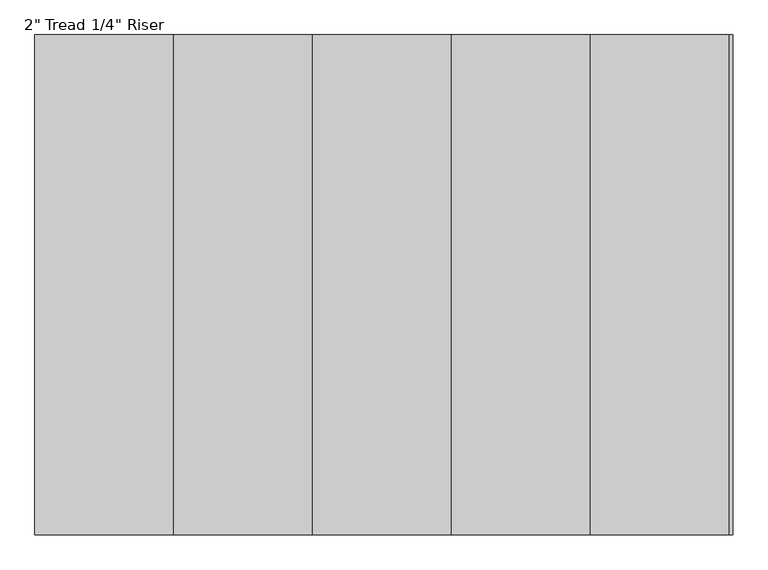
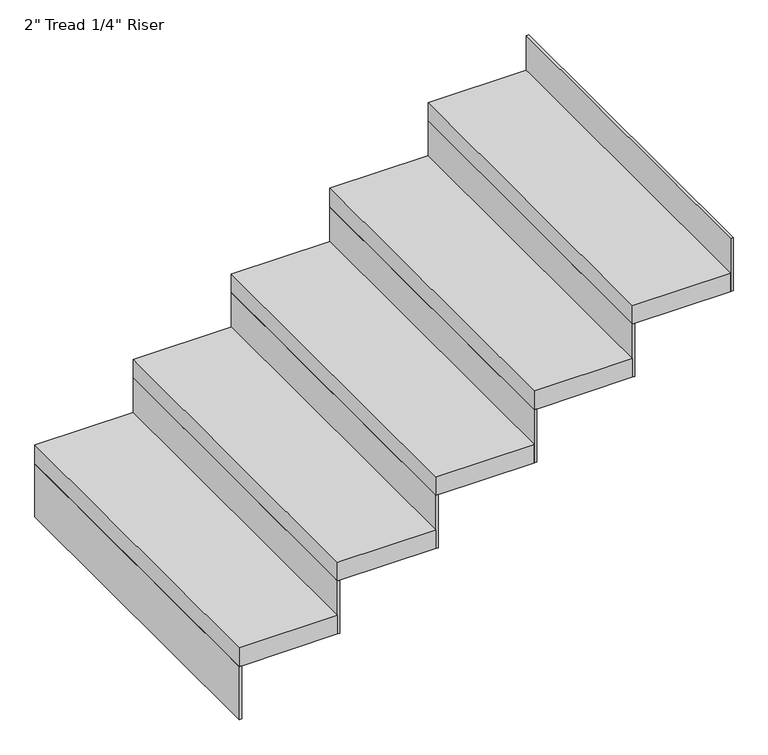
"""IFC4 building model written with IfcOpenShell, lengths in millimetres: stair flight geometry."""

from ifc_helpers import new_model, si_unit, frame, origin, place, context, project, spatial, polyline, outline, extrude, source, transform, mapped, element, save


def stair_flight_cebf5503(model_context):
    return source(origin(), model_context, "Body", "SweptSolid", [
        extrude(outline(polyline([(17539.7535021, 43330.9361774), (17533.4035021, 43330.9361774), (17533.4035021, 44245.3361774), (17539.7535021, 44245.3361774), (17539.7535021, 43330.9361774)])), frame((0.0, 0.0, 2126.3428571), z_axis=(0.0, 0.0, 1.0), x_axis=(1.0, 0.0, 0.0)), (0.0, 0.0, 1.0), 145.1428571),
        extrude(outline(polyline([(17787.4035021, 44245.3361774), (17787.4035021, 43330.9361774), (17533.4035021, 43330.9361774), (17533.4035021, 44245.3361774), (17787.4035021, 44245.3361774)])), frame((0.0, 0.0, 2271.4857143), z_axis=(0.0, 0.0, 1.0), x_axis=(1.0, 0.0, 0.0)), (0.0, 0.0, 1.0), 50.8),
        extrude(outline(polyline([(17793.7535021, 43330.9361774), (17787.4035021, 43330.9361774), (17787.4035021, 44245.3361774), (17793.7535021, 44245.3361774), (17793.7535021, 43330.9361774)])), frame((0.0, 0.0, 2271.4857143), z_axis=(0.0, 0.0, 1.0), x_axis=(1.0, 0.0, 0.0)), (0.0, 0.0, 1.0), 145.1428571),
        extrude(outline(polyline([(18041.4035021, 44245.3361774), (18041.4035021, 43330.9361774), (17787.4035021, 43330.9361774), (17787.4035021, 44245.3361774), (18041.4035021, 44245.3361774)])), frame((0.0, 0.0, 2416.6285714), z_axis=(0.0, 0.0, 1.0), x_axis=(1.0, 0.0, 0.0)), (0.0, 0.0, 1.0), 50.8),
        extrude(outline(polyline([(18047.7535021, 43330.9361774), (18041.4035021, 43330.9361774), (18041.4035021, 44245.3361774), (18047.7535021, 44245.3361774), (18047.7535021, 43330.9361774)])), frame((0.0, 0.0, 2416.6285714), z_axis=(0.0, 0.0, 1.0), x_axis=(1.0, 0.0, 0.0)), (0.0, 0.0, 1.0), 145.1428571),
        extrude(outline(polyline([(18295.4035021, 44245.3361774), (18295.4035021, 43330.9361774), (18041.4035021, 43330.9361774), (18041.4035021, 44245.3361774), (18295.4035021, 44245.3361774)])), frame((0.0, 0.0, 2561.7714286), z_axis=(0.0, 0.0, 1.0), x_axis=(1.0, 0.0, 0.0)), (0.0, 0.0, 1.0), 50.8),
        extrude(outline(polyline([(18301.7535021, 43330.9361774), (18295.4035021, 43330.9361774), (18295.4035021, 44245.3361774), (18301.7535021, 44245.3361774), (18301.7535021, 43330.9361774)])), frame((0.0, 0.0, 2561.7714286), z_axis=(0.0, 0.0, 1.0), x_axis=(1.0, 0.0, 0.0)), (0.0, 0.0, 1.0), 145.1428571),
        extrude(outline(polyline([(18549.4035021, 44245.3361774), (18549.4035021, 43330.9361774), (18295.4035021, 43330.9361774), (18295.4035021, 44245.3361774), (18549.4035021, 44245.3361774)])), frame((0.0, 0.0, 2706.9142857), z_axis=(0.0, 0.0, 1.0), x_axis=(1.0, 0.0, 0.0)), (0.0, 0.0, 1.0), 50.8),
        extrude(outline(polyline([(18555.7535021, 43330.9361774), (18549.4035021, 43330.9361774), (18549.4035021, 44245.3361774), (18555.7535021, 44245.3361774), (18555.7535021, 43330.9361774)])), frame((0.0, 0.0, 2706.9142857), z_axis=(0.0, 0.0, 1.0), x_axis=(1.0, 0.0, 0.0)), (0.0, 0.0, 1.0), 145.1428571),
        extrude(outline(polyline([(18809.7535021, 43330.9361774), (18803.4035021, 43330.9361774), (18803.4035021, 44245.3361774), (18809.7535021, 44245.3361774), (18809.7535021, 43330.9361774)])), frame((0.0, 0.0, 2852.0571429), z_axis=(0.0, 0.0, 1.0), x_axis=(1.0, 0.0, 0.0)), (0.0, 0.0, 1.0), 145.1428571),
        extrude(outline(polyline([(18803.4035021, 44245.3361774), (18803.4035021, 43330.9361774), (18549.4035021, 43330.9361774), (18549.4035021, 44245.3361774), (18803.4035021, 44245.3361774)])), frame((0.0, 0.0, 2852.0571429), z_axis=(0.0, 0.0, 1.0), x_axis=(1.0, 0.0, 0.0)), (0.0, 0.0, 1.0), 50.8),
    ])


if __name__ == "__main__":
    model = new_model("IFC4")
    model_context = context("Model", 3, world=origin())
    ifc_project = project(units=[si_unit("LENGTHUNIT", "METRE", prefix="MILLI")], contexts=[model_context])
    site = spatial("IfcSite", under=ifc_project)
    building = spatial("IfcBuilding", under=site)
    placement = place(None, origin())
    stair_flight_shape = stair_flight_cebf5503(model_context)
    element("IfcStairFlight", 1, ObjectType="2\" Tread 1/4\" Riser", at=placement, inside=building, context=model_context, shape_type="MappedRepresentation", body=[
        mapped(stair_flight_shape, transform((0.0, 0.0, 0.0), x_axis=(1.0, 0.0, 0.0), y_axis=(0.0, 1.0, 0.0), z_axis=(0.0, 0.0, 1.0))),
    ])
    save(model, "model.ifc")
